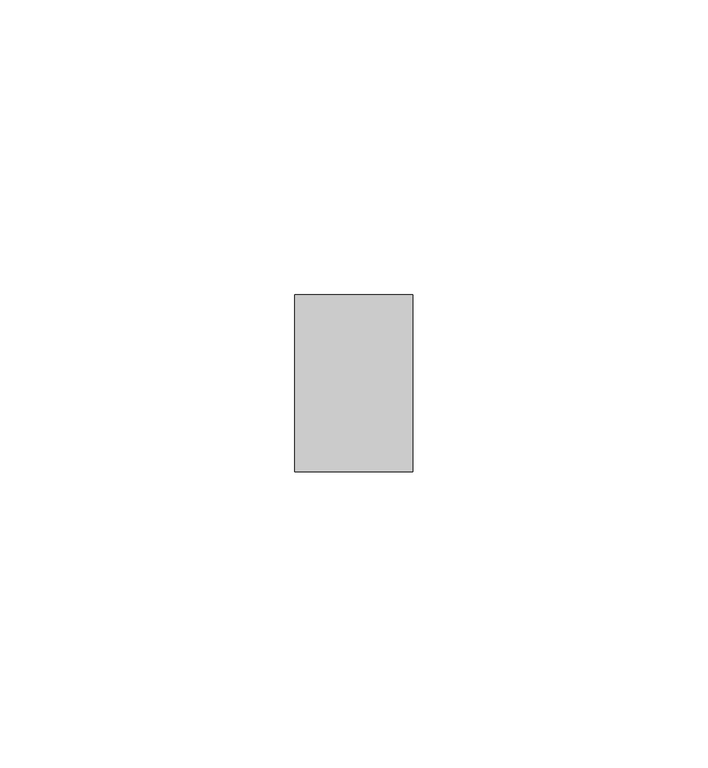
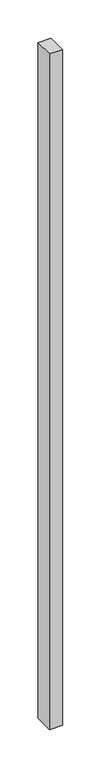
"""IFC4 building model written with IfcOpenShell, lengths in millimetres: member geometry, Прямоугольный импост : Квадрат 10 мм - Зазор между навесными плитами."""

from ifc_helpers import new_model, si_unit, frame, origin, place, context, project, spatial, polyline, outline, extrude, source, transform, mapped, element, save


def member_e1b67619(model_context):
    return source(origin(), model_context, "Body", "SweptSolid", [
        extrude(outline(polyline([(10.0, 15.0), (10.0, -15.0), (-10.0, -15.0), (-10.0, 15.0), (10.0, 15.0)])), frame((0.0, 0.0, -1079.5209456), z_axis=(0.0, 0.0, 1.0), x_axis=(1.0, 0.0, 0.0)), (0.0, 0.0, 1.0), 1079.5209456),
    ])


if __name__ == "__main__":
    model = new_model("IFC4")
    model_context = context("Model", 3, world=origin())
    ifc_project = project(units=[si_unit("LENGTHUNIT", "METRE", prefix="MILLI")], contexts=[model_context])
    site = spatial("IfcSite", under=ifc_project)
    building = spatial("IfcBuilding", under=site)
    placement = place(None, origin())
    member_shape = member_e1b67619(model_context)
    element("IfcMember", 1, ObjectType="Прямоугольный импост : Квадрат 10 мм - Зазор между навесными плитами", at=placement, inside=building, context=model_context, shape_type="MappedRepresentation", body=[
        mapped(member_shape, transform((0.0, 0.0, 0.0), x_axis=(1.0, 0.0, 0.0), y_axis=(0.0, 1.0, 0.0), z_axis=(0.0, 0.0, 1.0))),
    ])
    save(model, "model.ifc")
